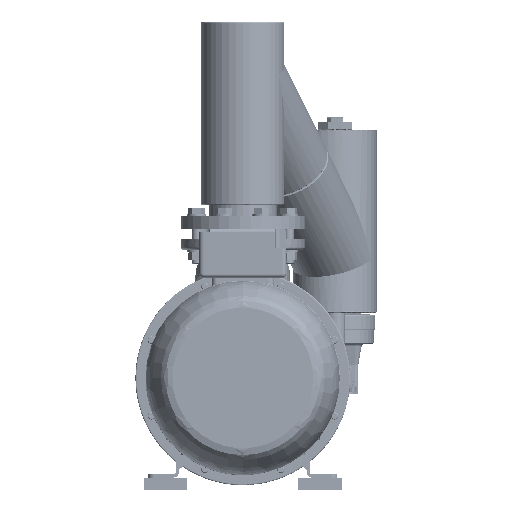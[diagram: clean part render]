
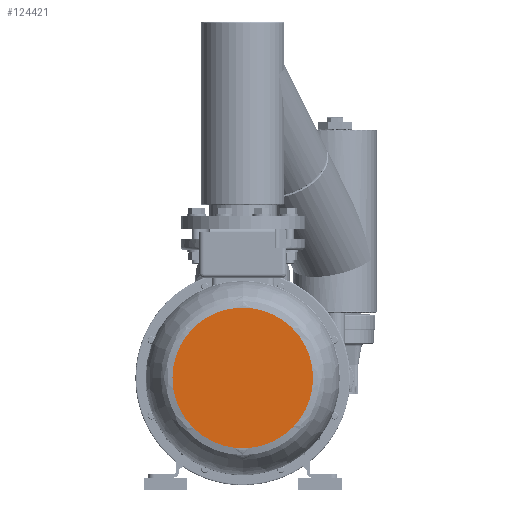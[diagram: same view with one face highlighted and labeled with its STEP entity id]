
A CAD part, front view. The second image highlights one B-rep face of the part: STEP entity #124421.
In plain terms, the highlighted planar face has unit normal (0, -1, 0).
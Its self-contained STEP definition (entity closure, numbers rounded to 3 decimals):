
#77800 = CARTESIAN_POINT ( 'NONE',  ( -154.478, -982.869, 137.932 ) ) ;
#77803 = CARTESIAN_POINT ( 'NONE',  ( -380.343, -982.869, 137.932 ) ) ;
#77806 = CARTESIAN_POINT ( 'NONE',  ( -380.343, -982.869, -87.932 ) ) ;
#77808 = CARTESIAN_POINT ( 'NONE',  ( -154.478, -982.869, -87.932 ) ) ;
#77818 =( BOUNDED_CURVE ( )  B_SPLINE_CURVE ( 3, ( #77808, #77806, #77803, #77800 ),
 .UNSPECIFIED., .F., .F. ) 
 B_SPLINE_CURVE_WITH_KNOTS ( ( 4, 4 ),
 ( 0., 1. ),
 .UNSPECIFIED. ) 
 CURVE ( )  GEOMETRIC_REPRESENTATION_ITEM ( )  RATIONAL_B_SPLINE_CURVE ( ( 1., 0.333, 0.333, 1. ) ) 
 REPRESENTATION_ITEM ( '' )  );
#78604 = CARTESIAN_POINT ( 'NONE',  ( -154.478, -982.869, -87.932 ) ) ;
#78613 = CARTESIAN_POINT ( 'NONE',  ( -154.478, -982.869, 137.932 ) ) ;
#116797 =( BOUNDED_CURVE ( )  B_SPLINE_CURVE ( 3, ( #119781, #119819, #119817, #120236 ),
 .UNSPECIFIED., .F., .T. ) 
 B_SPLINE_CURVE_WITH_KNOTS ( ( 4, 4 ),
 ( 0., 1. ),
 .UNSPECIFIED. ) 
 CURVE ( )  GEOMETRIC_REPRESENTATION_ITEM ( )  RATIONAL_B_SPLINE_CURVE ( ( 1., 0.333, 0.333, 1. ) ) 
 REPRESENTATION_ITEM ( '' )  );
#118895 = EDGE_LOOP ( 'NONE', ( #121268, #123950 ) ) ;
#119781 = CARTESIAN_POINT ( 'NONE',  ( -154.478, -982.869, 137.932 ) ) ;
#119817 = CARTESIAN_POINT ( 'NONE',  ( 71.387, -982.869, -87.932 ) ) ;
#119819 = CARTESIAN_POINT ( 'NONE',  ( 71.387, -982.869, 137.932 ) ) ;
#120236 = CARTESIAN_POINT ( 'NONE',  ( -154.478, -982.869, -87.932 ) ) ;
#120523 = PLANE ( 'NONE',  #120643 ) ;
#120551 = CARTESIAN_POINT ( 'NONE',  ( -154.478, -982.869, 25. ) ) ;
#120569 = FACE_OUTER_BOUND ( 'NONE', #118895, .T. ) ;
#120627 = DIRECTION ( 'NONE',  ( 1., 0., 0. ) ) ;
#120628 = DIRECTION ( 'NONE',  ( 0., -1., 0. ) ) ;
#120643 = AXIS2_PLACEMENT_3D ( 'NONE', #120551, #120628, #120627 ) ;
#121268 = ORIENTED_EDGE ( 'NONE', *, *, #139833, .F. ) ;
#121785 = EDGE_CURVE ( 'NONE', #139920, #139918, #116797, .T. ) ;
#123950 = ORIENTED_EDGE ( 'NONE', *, *, #121785, .F. ) ;
#124421 = ADVANCED_FACE ( 'NONE', ( #120569 ), #120523, .T. ) ;
#139833 = EDGE_CURVE ( 'NONE', #139918, #139920, #77818, .T. ) ;
#139918 = VERTEX_POINT ( 'NONE', #78604 ) ;
#139920 = VERTEX_POINT ( 'NONE', #78613 ) ;
